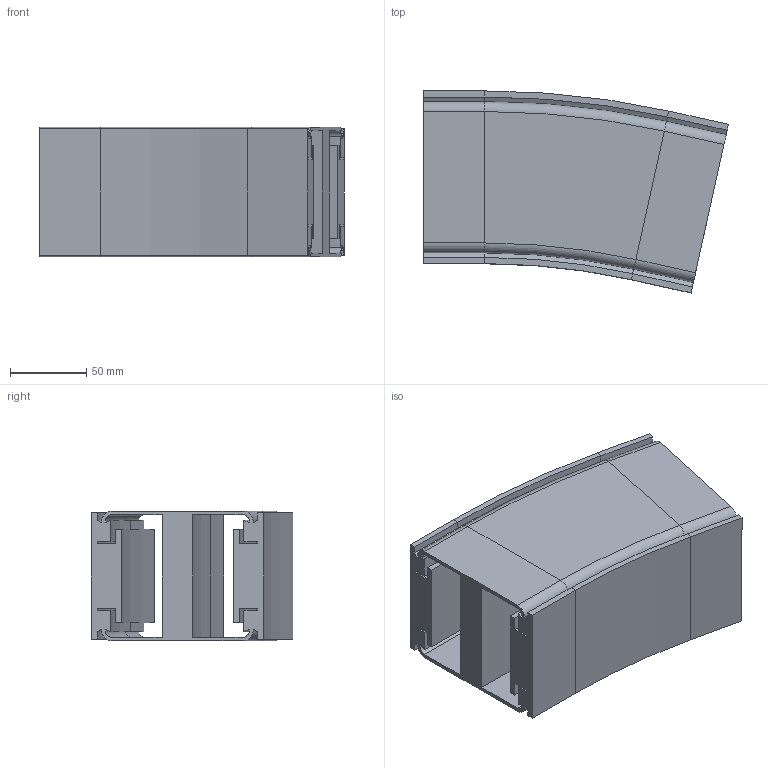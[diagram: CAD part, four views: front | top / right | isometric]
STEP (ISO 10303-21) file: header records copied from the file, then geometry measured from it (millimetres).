
FILE_DESCRIPTION (( 'STEP AP214' ), '1' );
FILE_NAME ('VC.85 Verticale bochtsectie.R500 12,5.STEP', '2017-02-08T08:13:09', ( '' ), ( '' ), 'SwSTEP 2.0', 'SolidWorks 2016', '' );
FILE_SCHEMA (( 'AUTOMOTIVE_DESIGN' ));
Length unit declared in the file: millimetre
Products named in the file (1): VC.85 Verticale bochtsectie.R500 12,5
Bounding box: 199.5 x 132.17 x 85 mm (x, y, z)
Volume: 901383.6 mm3; surface area: 215390.3 mm2
Topology: 1 solids, 1 shells, 206 faces, 476 edges, 272 vertices
Faces by surface type: plane 144, cylinder 46, cone 8, torus 8
Entity records: 5674 total; most frequent: DIRECTION 990, CARTESIAN_POINT 955, ORIENTED_EDGE 952, EDGE_CURVE 476, LINE 376, VECTOR 376, AXIS2_PLACEMENT_3D 307, VERTEX_POINT 272
